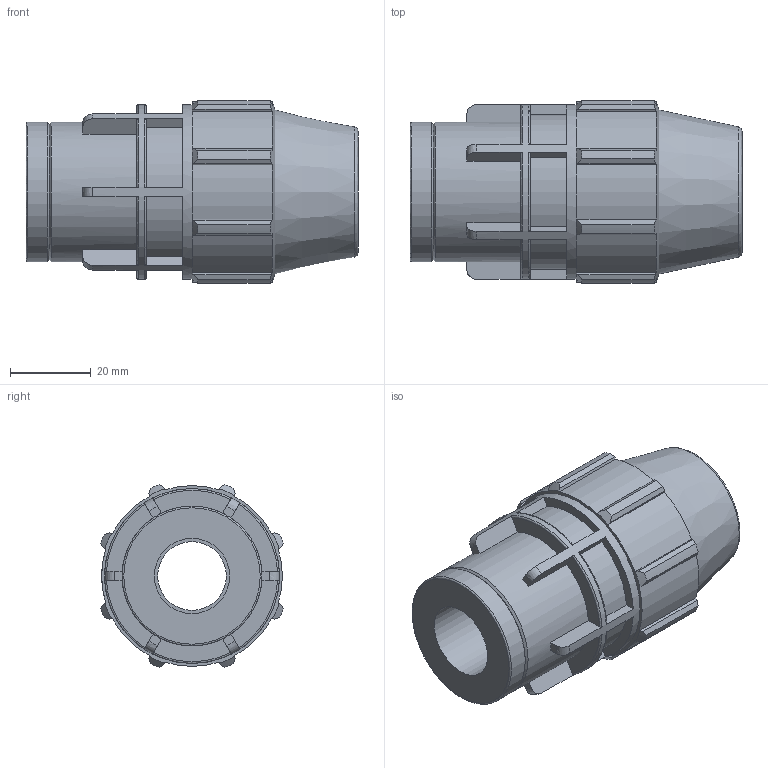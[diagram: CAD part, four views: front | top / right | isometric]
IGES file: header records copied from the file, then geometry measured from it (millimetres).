
Global section: file name: 0703M0005005.ipt; native system: Autodesk Inventor 2019; preprocessor: unknown; author: KIM; date: 20210826.124506; units: inch
Bounding box: 82.04 x 45.17 x 45.17 mm (x, y, z)
Volume: 70105.6 mm3; surface area: 19440.3 mm2
Topology: 1 solids, 1 shells, 148 faces, 413 edges, 277 vertices
Faces by surface type: plane 86, revolution 25, cylinder 25, cone 12
Full cylindrical faces by diameter (mm): 34.564 x2, 43.205 x1
